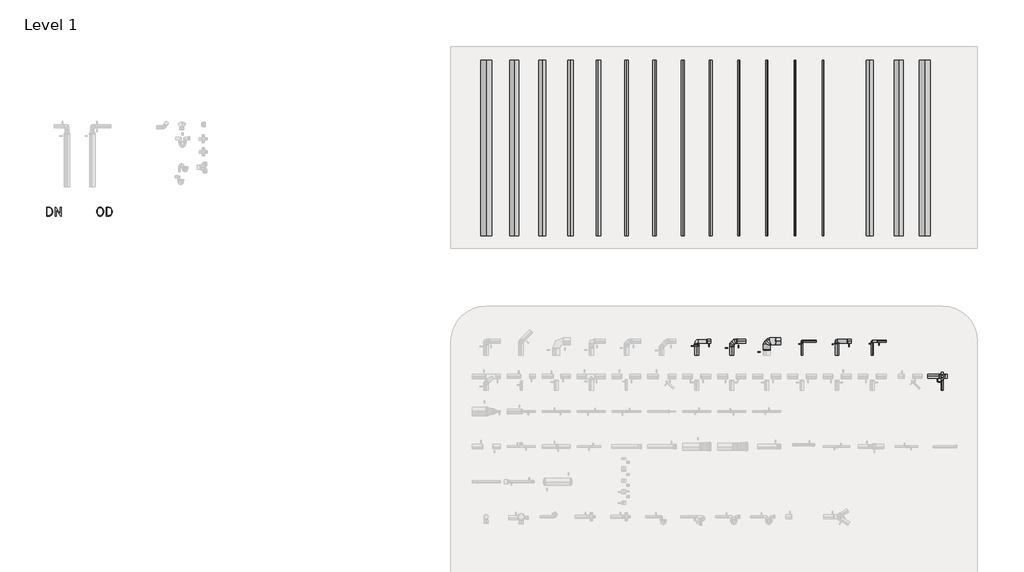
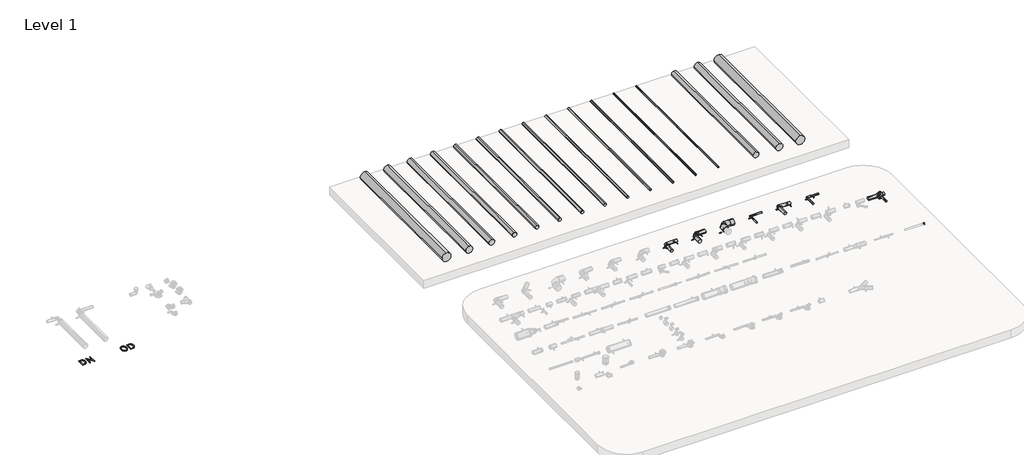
# One storey, part 6 of 6: 29 pipe segments, 23 pipe fittings, 2 proxies.
"""IFC4 building model written with IfcOpenShell, lengths in millimetres."""

from ifc_helpers import new_model, si_unit, point, frame, frame_2d, origin, origin_with_axes, place, context, project, spatial, polyline, circle_curve, trimmed, segment, composite_curve, outline, extrude, transform, mapped, element, save
from components import pipe_fitting_81bb528a, pipe_fitting_5bbf7105, var_6f643ae4, var_2f964d50, var_6e64f8e0, var_6ef94224, var_1fbc9df2, nested_do_not_use_0367c6a2, nested_do_not_use_355ab53d, nested_do_not_use_269007d1, nested_do_not_use_3e3a2135, nested_do_not_use_821c716b, nested_do_not_use_f1a46828, welded_7e5780db, welded_b2ff7ccb, welded_75b1cb19, welded_dc74d5dd, welded_63566782, welded_ac007b25

model = new_model("IFC4")

# Units and contexts
model_context = context("Model", 3, world=origin())
ifc_project = project(units=[si_unit("LENGTHUNIT", "METRE", prefix="MILLI")], contexts=[model_context])

# Site, building, storey
site = spatial("IfcSite", under=ifc_project)
building = spatial("IfcBuilding", under=site)
storey = spatial("IfcBuildingStorey", under=building, Name="Level 1", Elevation=0.0)

# Proxies
placement = place(None, origin())
element("IfcBuildingElementProxy", 1, Name="250mm", ObjectType="250mm", at=placement, inside=storey, context=model_context, shape_type="SweptSolid", body=[
    extrude(outline(polyline([(-9692.1749272, 23938.8206285), (-9715.6755281, 23879.4741742), (-9740.4404019, 23854.6349314), (-9776.6581002, 23842.364048), (-9863.521081, 23842.364048), (-9863.521081, 24089.864048), (-9776.0631483, 24089.864048), (-9738.8042841, 24077.2956886), (-9714.8574692, 24052.9770287), (-9692.1749272, 23996.3822271), (-9692.1749272, 23938.8206285)]), holes=[polyline([(-9715.9730041, 23939.3412114), (-9715.9730041, 23996.0847511), (-9726.9052457, 24029.1045828), (-9737.8374873, 24050.3741141), (-9747.282349, 24060.1164518), (-9779.0379079, 24070.8255864), (-9839.7230041, 24070.8255864), (-9839.7230041, 23861.4025095), (-9779.7072288, 23861.4025095), (-9748.9928358, 23871.7397992), (-9738.8042841, 23881.9283509), (-9727.2027216, 23904.4621549), (-9715.9730041, 23939.3412114)])]), origin_with_axes(), (0.0, 0.0, 1.0), 20.0),
    extrude(outline(polyline([(-9444.6749272, 23842.364048), (-9455.8302757, 23842.364048), (-9592.2230041, 24040.7061453), (-9592.2230041, 23842.364048), (-9616.021081, 23842.364048), (-9616.021081, 24089.864048), (-9603.6758286, 24089.864048), (-9468.4730041, 23896.281566), (-9468.4730041, 24089.864048), (-9444.6749272, 24089.864048), (-9444.6749272, 23842.364048)])), origin_with_axes(), (0.0, 0.0, 1.0), 20.0),
])
element("IfcBuildingElementProxy", 2, Name="250mm", ObjectType="250mm", at=placement, inside=storey, context=model_context, shape_type="SweptSolid", body=[
    extrude(outline(polyline([(-8237.896081, 23939.2668424), (-8249.8694885, 23903.792834), (-8261.8428959, 23879.0279602), (-8285.9384488, 23854.8580384), (-8311.1495365, 23842.364048), (-8360.0099632, 23842.364048), (-8384.997944, 23854.7836694), (-8409.3909728, 23879.1023292), (-8421.1412733, 23903.792834), (-8433.0403118, 23939.0437355), (-8433.0403118, 23996.3822271), (-8421.3643803, 24030.0713797), (-8410.2090317, 24053.2745047), (-8386.8571687, 24076.9238436), (-8360.8280221, 24089.864048), (-8310.2571086, 24089.864048), (-8284.227962, 24076.9982126), (-8260.876099, 24053.2745047), (-8249.5720125, 24030.0713797), (-8237.896081, 23996.1591201), (-8237.896081, 23939.2668424)]), holes=[polyline([(-8261.6941579, 23937.8538316), (-8261.6941579, 23993.5562054), (-8272.4776615, 24025.3861333), (-8293.8959308, 24056.5467403), (-8325.1309067, 24066.809661), (-8345.954224, 24066.809661), (-8377.114831, 24056.5467403), (-8398.4587312, 24025.2373953), (-8409.2422349, 23993.7793124), (-8409.2422349, 23937.6307247), (-8397.9381483, 23903.718465), (-8375.6274512, 23871.4423232), (-8345.1361651, 23861.4025095), (-8323.122944, 23861.4025095), (-8295.4576796, 23871.3679542), (-8272.8495065, 23903.792834), (-8261.6941579, 23937.8538316)])]), origin_with_axes(), (0.0, 0.0, 1.0), 20.0),
    extrude(outline(polyline([(-7990.396081, 23938.8206285), (-8013.896682, 23879.4741742), (-8038.6615558, 23854.6349314), (-8074.8792541, 23842.364048), (-8161.7422349, 23842.364048), (-8161.7422349, 24089.864048), (-8074.2843022, 24089.864048), (-8037.025438, 24077.2956886), (-8013.0786231, 24052.9770287), (-7990.396081, 23996.3822271), (-7990.396081, 23938.8206285)]), holes=[polyline([(-8014.1941579, 23939.3412114), (-8014.1941579, 23996.0847511), (-8025.1263995, 24029.1045828), (-8036.0586411, 24050.3741141), (-8045.5035029, 24060.1164518), (-8077.2590618, 24070.8255864), (-8137.9441579, 24070.8255864), (-8137.9441579, 23861.4025095), (-8077.9283827, 23861.4025095), (-8047.2139897, 23871.7397992), (-8037.025438, 23881.9283509), (-8025.4238755, 23904.4621549), (-8014.1941579, 23939.3412114)])]), origin_with_axes(), (0.0, 0.0, 1.0), 20.0),
])

# Pipe fittings
pipe_fitting_shape = pipe_fitting_81bb528a(model_context)
element("IfcPipeFitting", 3, ObjectType="PIF_HDPE weld_Akatherm : ringseal or non-welded", at=placement, inside=storey, context=model_context, shape_type="MappedRepresentation", body=[
    mapped(pipe_fitting_shape, transform((12659.9781064, 20232.3274824, 200.0), x_axis=(0.0, -1.0, 0.0), y_axis=(1.0, 0.0, 0.0), z_axis=(0.0, 0.0, 1.0))),
])
pipe_fitting_2_shape = pipe_fitting_5bbf7105(model_context)
element("IfcPipeFitting", 4, ObjectType="PIF_HDPE weld_Akatherm : ringseal or non-welded", at=placement, inside=storey, context=model_context, shape_type="MappedRepresentation", body=[
    mapped(pipe_fitting_2_shape, transform((13659.9781064, 20245.1274824, 200.0), x_axis=(0.0, -1.0, 0.0), y_axis=(1.0, 0.0, 0.0), z_axis=(0.0, 0.0, 1.0))),
])
var_shape = var_6f643ae4(model_context)
element("IfcPipeFitting", 5, ObjectType="PIF_HDPE floor lavatory bend_Akatherm : Var.", at=placement, inside=storey, context=model_context, shape_type="MappedRepresentation", body=[
    mapped(var_shape, transform((8659.9781064, 20273.6274824, 200.0), x_axis=(-1.0, 0.0, 0.0), y_axis=(0.0, -1.0, 0.0), z_axis=(0.0, 0.0, 1.0))),
])
var_2_shape = var_2f964d50(model_context)
element("IfcPipeFitting", 6, ObjectType="PIF_HDPE assembled elbow 2x 45º_Akatherm : Var.", at=placement, inside=storey, context=model_context, shape_type="MappedRepresentation", body=[
    mapped(var_2_shape, transform((10659.9781064, 20273.6274824, 200.0), x_axis=(-1.0, 0.0, 0.0), y_axis=(0.0, -1.0, 0.0), z_axis=(0.0, 0.0, 1.0))),
])
var_3_shape = var_6e64f8e0(model_context)
element("IfcPipeFitting", 7, ObjectType="PIF_HDPE wall lavatory bend_Akatherm : Var.", at=placement, inside=storey, context=model_context, shape_type="MappedRepresentation", body=[
    mapped(var_3_shape, transform((12659.9781064, 20273.6274824, 200.0), x_axis=(-1.0, 0.0, 0.0), y_axis=(0.0, -1.0, 0.0), z_axis=(0.0, 0.0, 1.0))),
])
var_4_shape = var_6ef94224(model_context)
element("IfcPipeFitting", 8, ObjectType="PIF_HDPE wall urinal bend_Akatherm : Var.", at=placement, inside=storey, context=model_context, shape_type="MappedRepresentation", body=[
    mapped(var_4_shape, transform((13659.9781064, 20273.6274824, 200.0), x_axis=(-1.0, 0.0, 0.0), y_axis=(0.0, -1.0, 0.0), z_axis=(0.0, 0.0, 1.0))),
])
var_5_shape = var_1fbc9df2(model_context)
element("IfcPipeFitting", 9, ObjectType="PIF_HDPE 4-way riser_Akatherm : Var.", at=placement, inside=storey, context=model_context, shape_type="MappedRepresentation", body=[
    mapped(var_5_shape, transform((15659.9781064, 19273.6274824, 200.0), x_axis=(-1.0, 0.0, 0.0), y_axis=(0.0, -1.0, 0.0), z_axis=(0.0, 0.0, 1.0))),
])
nested_do_not_use_shape = nested_do_not_use_0367c6a2(model_context)
element("IfcPipeFitting", 10, ObjectType="ZZZ_do no use_PIF_HDPE elbow for bend assembly -SH_Akatherm : nested, do not use", at=placement, inside=storey, context=model_context, shape_type="MappedRepresentation", body=[
    mapped(nested_do_not_use_shape, transform((9745.962291, 20273.6274824, 200.0), x_axis=(-1.0, 0.0, 0.0), y_axis=(0.0, -1.0, 0.0), z_axis=(0.0, 0.0, 1.0))),
])
nested_do_not_use_2_shape = nested_do_not_use_355ab53d(model_context)
element("IfcPipeFitting", 11, ObjectType="ZZZ_do no use_PIF_HDPE elbow for bend assembly -SH_Akatherm : nested, do not use", at=placement, inside=storey, context=model_context, shape_type="MappedRepresentation", body=[
    mapped(nested_do_not_use_2_shape, transform((9659.9781064, 20187.6432978, 200.0), x_axis=(0.0, 1.0, 0.0), y_axis=(-1.0, 0.0, 0.0), z_axis=(0.0, 0.0, 1.0))),
])
nested_do_not_use_3_shape = nested_do_not_use_269007d1(model_context)
element("IfcPipeFitting", 12, ObjectType="ZZZ_do no use_PIF_HDPE rubber sleeve -SH_Akatherm : nested, do not use", at=placement, inside=storey, context=model_context, shape_type="MappedRepresentation", body=[
    mapped(nested_do_not_use_3_shape, transform((11659.9781064, 20235.6274824, 200.0), x_axis=(0.0, -1.0000000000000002, 0.0), y_axis=(1.0000000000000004, 0.0, 0.0), z_axis=(0.0, 0.0, 1.0000000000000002))),
])
nested_do_not_use_4_shape = nested_do_not_use_3e3a2135(model_context)
element("IfcPipeFitting", 13, ObjectType="ZZZ_do no use_PIF_HDPE protective cap for plugin socket -SH_Akatherm : nested, do not use", at=placement, inside=storey, context=model_context, shape_type="MappedRepresentation", body=[
    mapped(nested_do_not_use_4_shape, transform((16069.9781064, 17273.6274824, 200.0), x_axis=(1.0000000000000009, 0.0, 0.0), y_axis=(0.0, 1.0000000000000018, 0.0), z_axis=(0.0, 0.0, 1.0000000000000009))),
])
nested_do_not_use_5_shape = nested_do_not_use_821c716b(model_context)
element("IfcPipeFitting", 14, ObjectType="ZZZ_do no use_PIF_HDPE rubber seal -SH_Akatherm : nested, do not use", at=placement, inside=storey, context=model_context, shape_type="MappedRepresentation", body=[
    mapped(nested_do_not_use_5_shape, transform((8659.9781064, 20133.6274824, 200.0), x_axis=(0.0, -1.0, 0.0), y_axis=(1.0, 0.0, 0.0), z_axis=(0.0, 0.0, 1.0))),
])
nested_do_not_use_6_shape = nested_do_not_use_f1a46828(model_context)
element("IfcPipeFitting", 15, ObjectType="ZZZ_do no use_PIF_HDPE trap connecting bend -SH_Akatherm : nested, do not use", at=placement, inside=storey, context=model_context, shape_type="MappedRepresentation", body=[
    mapped(nested_do_not_use_6_shape, transform((11659.9781064, 20273.6274824, 200.0), x_axis=(-1.0, 0.0, 0.0), y_axis=(0.0, -1.0, 0.0), z_axis=(0.0, 0.0, 1.0))),
])
welded_shape = welded_7e5780db(model_context)
element("IfcPipeFitting", 16, ObjectType="PIF_HDPE weld_Akatherm : welded", at=placement, inside=storey, context=model_context, shape_type="MappedRepresentation", body=[
    mapped(welded_shape, transform((9806.762291, 20273.6274824, 200.0), x_axis=(1.0, 0.0, 0.0), y_axis=(0.0, 1.0, 0.0), z_axis=(0.0, 0.0, 1.0))),
])
element("IfcPipeFitting", 17, ObjectType="PIF_HDPE weld_Akatherm : welded", at=placement, inside=storey, context=model_context, shape_type="MappedRepresentation", body=[
    mapped(welded_shape, transform((9659.9781064, 20126.8432978, 200.0), x_axis=(0.0, -1.0, 0.0), y_axis=(1.0, 0.0, 0.0), z_axis=(0.0, 0.0, 1.0))),
])
welded_2_shape = welded_b2ff7ccb(model_context)
element("IfcPipeFitting", 18, ObjectType="PIF_HDPE weld_Akatherm : welded", at=placement, inside=storey, context=model_context, shape_type="MappedRepresentation", body=[
    mapped(welded_2_shape, transform((10659.9781064, 20024.3274824, 200.0), x_axis=(0.0, -1.0, 0.0), y_axis=(1.0, 0.0, 0.0), z_axis=(0.0, 0.0, 1.0))),
])
welded_3_shape = welded_75b1cb19(model_context)
element("IfcPipeFitting", 19, ObjectType="PIF_HDPE weld_Akatherm : welded", at=placement, inside=storey, context=model_context, shape_type="MappedRepresentation", body=[
    mapped(welded_3_shape, transform((13805.2781064, 20273.6274824, 200.0), x_axis=(1.0, 0.0, 0.0), y_axis=(0.0, 1.0, 0.0), z_axis=(0.0, 0.0, 1.0))),
])
welded_4_shape = welded_dc74d5dd(model_context)
element("IfcPipeFitting", 20, ObjectType="PIF_HDPE weld_Akatherm : welded", at=placement, inside=storey, context=model_context, shape_type="MappedRepresentation", body=[
    mapped(welded_4_shape, transform((15659.9781064, 19163.5274824, 200.0), x_axis=(0.0, -1.0, 0.0), y_axis=(1.0, 0.0, 0.0), z_axis=(0.0, 0.0, 1.0))),
])
welded_5_shape = welded_63566782(model_context)
element("IfcPipeFitting", 21, ObjectType="PIF_HDPE weld_Akatherm : welded", at=placement, inside=storey, context=model_context, shape_type="MappedRepresentation", body=[
    mapped(welded_5_shape, transform((11659.9781064, 20247.6274824, 200.0), x_axis=(0.0, -1.0, 0.0), y_axis=(1.0, 0.0, 0.0), z_axis=(0.0, 0.0, 1.0))),
])
welded_6_shape = welded_ac007b25(model_context)
element("IfcPipeFitting", 22, ObjectType="PIF_HDPE weld_Akatherm : welded", at=placement, inside=storey, context=model_context, shape_type="MappedRepresentation", body=[
    mapped(welded_6_shape, transform((12956.2781064, 20273.6274824, 200.0), x_axis=(1.0, 0.0, 0.0), y_axis=(0.0, 1.0, 0.0), z_axis=(0.0, 0.0, 1.0))),
])
element("IfcPipeFitting", 23, ObjectType="PIF_HDPE weld_Akatherm : welded", at=placement, inside=storey, context=model_context, shape_type="MappedRepresentation", body=[
    mapped(welded_6_shape, transform((8956.2781064, 20273.6274824, 200.0), x_axis=(1.0, 0.0, 0.0), y_axis=(0.0, 1.0, 0.0), z_axis=(0.0, 0.0, 1.0))),
])
element("IfcPipeFitting", 24, ObjectType="PIF_HDPE weld_Akatherm : welded", at=placement, inside=storey, context=model_context, shape_type="MappedRepresentation", body=[
    mapped(welded_6_shape, transform((8659.9781064, 20188.6274824, 200.0), x_axis=(0.0, -1.0, 0.0), y_axis=(1.0, 0.0, 0.0), z_axis=(0.0, 0.0, 1.0))),
])
element("IfcPipeFitting", 25, ObjectType="PIF_HDPE weld_Akatherm : welded", at=placement, inside=storey, context=model_context, shape_type="MappedRepresentation", body=[
    mapped(welded_6_shape, transform((15568.7781064, 19273.6274824, 200.0), x_axis=(-1.0, 0.0, 0.0), y_axis=(0.0, 1.0, 0.0), z_axis=(0.0, 0.0, -1.0))),
])

# Pipe segments
element("IfcPipeSegment", 26, ObjectType="Akatherm HDPE (DN)", at=placement, inside=storey, context=model_context, shape_type="SweptSolid", body=[
    extrude(outline(composite_curve([segment(trimmed(circle_curve(frame_2d((0.0, 2659.9781064)), 157.5), [point((0.0, 2502.4781064))], [point((-157.5, 2659.9781064))], False, "CARTESIAN"), True, "CONTINUOUS"), segment(trimmed(circle_curve(frame_2d((0.0, 2659.9781064)), 157.5), [point((-157.5, 2659.9781064))], [point((0.0, 2817.4781064))], False, "CARTESIAN"), True, "CONTINUOUS"), segment(trimmed(circle_curve(frame_2d((0.0, 2659.9781064)), 157.5), [point((0.0, 2817.4781064))], [point((157.5, 2659.9781064))], False, "CARTESIAN"), True, "CONTINUOUS"), segment(trimmed(circle_curve(frame_2d((0.0, 2659.9781064)), 157.5), [point((157.5, 2659.9781064))], [point((0.0, 2502.4781064))], False, "CARTESIAN"), True, "CONTINUOUS")], self_intersect=False)), frame((0.0, 23273.6274824, 0.0), z_axis=(0.0, 1.0, 0.0), x_axis=(0.0, 0.0, 1.0)), (0.0, 0.0, 1.0), 5000.0),
])
element("IfcPipeSegment", 27, ObjectType="Akatherm HDPE (DN)", at=placement, inside=storey, context=model_context, shape_type="SweptSolid", body=[
    extrude(outline(composite_curve([segment(trimmed(circle_curve(frame_2d((0.0, 3459.9781064)), 125.0), [point((0.0, 3334.9781064))], [point((-125.0, 3459.9781064))], False, "CARTESIAN"), True, "CONTINUOUS"), segment(trimmed(circle_curve(frame_2d((0.0, 3459.9781064)), 125.0), [point((-125.0, 3459.9781064))], [point((0.0, 3584.9781064))], False, "CARTESIAN"), True, "CONTINUOUS"), segment(trimmed(circle_curve(frame_2d((0.0, 3459.9781064)), 125.0), [point((0.0, 3584.9781064))], [point((125.0, 3459.9781064))], False, "CARTESIAN"), True, "CONTINUOUS"), segment(trimmed(circle_curve(frame_2d((0.0, 3459.9781064)), 125.0), [point((125.0, 3459.9781064))], [point((0.0, 3334.9781064))], False, "CARTESIAN"), True, "CONTINUOUS")], self_intersect=False)), frame((0.0, 23273.6274824, 0.0), z_axis=(0.0, 1.0, 0.0), x_axis=(0.0, 0.0, 1.0)), (0.0, 0.0, 1.0), 5000.0),
])
element("IfcPipeSegment", 28, ObjectType="Akatherm HDPE (DN)", at=placement, inside=storey, context=model_context, shape_type="SweptSolid", body=[
    extrude(outline(composite_curve([segment(trimmed(circle_curve(frame_2d((0.0, 4259.9781064)), 100.0), [point((0.0, 4159.9781064))], [point((-100.0, 4259.9781064))], False, "CARTESIAN"), True, "CONTINUOUS"), segment(trimmed(circle_curve(frame_2d((0.0, 4259.9781064)), 100.0), [point((-100.0, 4259.9781064))], [point((0.0, 4359.9781064))], False, "CARTESIAN"), True, "CONTINUOUS"), segment(trimmed(circle_curve(frame_2d((0.0, 4259.9781064)), 100.0), [point((0.0, 4359.9781064))], [point((100.0, 4259.9781064))], False, "CARTESIAN"), True, "CONTINUOUS"), segment(trimmed(circle_curve(frame_2d((0.0, 4259.9781064)), 100.0), [point((100.0, 4259.9781064))], [point((0.0, 4159.9781064))], False, "CARTESIAN"), True, "CONTINUOUS")], self_intersect=False)), frame((0.0, 23273.6274824, 0.0), z_axis=(0.0, 1.0, 0.0), x_axis=(0.0, 0.0, 1.0)), (0.0, 0.0, 1.0), 5000.0),
])
element("IfcPipeSegment", 29, ObjectType="Akatherm HDPE (DN)", at=placement, inside=storey, context=model_context, shape_type="SweptSolid", body=[
    extrude(outline(composite_curve([segment(trimmed(circle_curve(frame_2d((0.0, 5059.9781064)), 80.0), [point((0.0, 4979.9781064))], [point((-80.0, 5059.9781064))], False, "CARTESIAN"), True, "CONTINUOUS"), segment(trimmed(circle_curve(frame_2d((0.0, 5059.9781064)), 80.0), [point((-80.0, 5059.9781064))], [point((0.0, 5139.9781064))], False, "CARTESIAN"), True, "CONTINUOUS"), segment(trimmed(circle_curve(frame_2d((0.0, 5059.9781064)), 80.0), [point((0.0, 5139.9781064))], [point((80.0, 5059.9781064))], False, "CARTESIAN"), True, "CONTINUOUS"), segment(trimmed(circle_curve(frame_2d((0.0, 5059.9781064)), 80.0), [point((80.0, 5059.9781064))], [point((0.0, 4979.9781064))], False, "CARTESIAN"), True, "CONTINUOUS")], self_intersect=False)), frame((0.0, 23273.6274824, 0.0), z_axis=(0.0, 1.0, 0.0), x_axis=(0.0, 0.0, 1.0)), (0.0, 0.0, 1.0), 5000.0),
])
element("IfcPipeSegment", 30, ObjectType="Akatherm HDPE (DN)", at=placement, inside=storey, context=model_context, shape_type="SweptSolid", body=[
    extrude(outline(composite_curve([segment(trimmed(circle_curve(frame_2d((0.0, 5859.9781064)), 62.5), [point((0.0, 5797.4781064))], [point((-62.5, 5859.9781064))], False, "CARTESIAN"), True, "CONTINUOUS"), segment(trimmed(circle_curve(frame_2d((0.0, 5859.9781064)), 62.5), [point((-62.5, 5859.9781064))], [point((0.0, 5922.4781064))], False, "CARTESIAN"), True, "CONTINUOUS"), segment(trimmed(circle_curve(frame_2d((0.0, 5859.9781064)), 62.5), [point((0.0, 5922.4781064))], [point((62.5, 5859.9781064))], False, "CARTESIAN"), True, "CONTINUOUS"), segment(trimmed(circle_curve(frame_2d((0.0, 5859.9781064)), 62.5), [point((62.5, 5859.9781064))], [point((0.0, 5797.4781064))], False, "CARTESIAN"), True, "CONTINUOUS")], self_intersect=False)), frame((0.0, 23273.6274824, 0.0), z_axis=(0.0, 1.0, 0.0), x_axis=(0.0, 0.0, 1.0)), (0.0, 0.0, 1.0), 5000.0),
])
element("IfcPipeSegment", 31, ObjectType="Akatherm HDPE (DN)", at=placement, inside=storey, context=model_context, shape_type="SweptSolid", body=[
    extrude(outline(composite_curve([segment(trimmed(circle_curve(frame_2d((0.0, 6659.9781064)), 55.0), [point((0.0, 6604.9781064))], [point((-55.0, 6659.9781064))], False, "CARTESIAN"), True, "CONTINUOUS"), segment(trimmed(circle_curve(frame_2d((0.0, 6659.9781064)), 55.0), [point((-55.0, 6659.9781064))], [point((0.0, 6714.9781064))], False, "CARTESIAN"), True, "CONTINUOUS"), segment(trimmed(circle_curve(frame_2d((0.0, 6659.9781064)), 55.0), [point((0.0, 6714.9781064))], [point((55.0, 6659.9781064))], False, "CARTESIAN"), True, "CONTINUOUS"), segment(trimmed(circle_curve(frame_2d((0.0, 6659.9781064)), 55.0), [point((55.0, 6659.9781064))], [point((0.0, 6604.9781064))], False, "CARTESIAN"), True, "CONTINUOUS")], self_intersect=False)), frame((0.0, 23273.6274824, 0.0), z_axis=(0.0, 1.0, 0.0), x_axis=(0.0, 0.0, 1.0)), (0.0, 0.0, 1.0), 5000.0),
])
element("IfcPipeSegment", 32, ObjectType="Akatherm HDPE (DN)", at=placement, inside=storey, context=model_context, shape_type="SweptSolid", body=[
    extrude(outline(composite_curve([segment(trimmed(circle_curve(frame_2d((0.0, 8259.9781064)), 45.0), [point((0.0, 8214.9781064))], [point((-45.0, 8259.9781064))], False, "CARTESIAN"), True, "CONTINUOUS"), segment(trimmed(circle_curve(frame_2d((0.0, 8259.9781064)), 45.0), [point((-45.0, 8259.9781064))], [point((0.0, 8304.9781064))], False, "CARTESIAN"), True, "CONTINUOUS"), segment(trimmed(circle_curve(frame_2d((0.0, 8259.9781064)), 45.0), [point((0.0, 8304.9781064))], [point((45.0, 8259.9781064))], False, "CARTESIAN"), True, "CONTINUOUS"), segment(trimmed(circle_curve(frame_2d((0.0, 8259.9781064)), 45.0), [point((45.0, 8259.9781064))], [point((0.0, 8214.9781064))], False, "CARTESIAN"), True, "CONTINUOUS")], self_intersect=False)), frame((0.0, 23273.6274824, 0.0), z_axis=(0.0, 1.0, 0.0), x_axis=(0.0, 0.0, 1.0)), (0.0, 0.0, 1.0), 5000.0),
])
element("IfcPipeSegment", 33, ObjectType="Akatherm HDPE (DN)", at=placement, inside=storey, context=model_context, shape_type="SweptSolid", body=[
    extrude(outline(composite_curve([segment(trimmed(circle_curve(frame_2d((0.0, 9059.9781064)), 37.5), [point((0.0, 9022.4781064))], [point((-37.5, 9059.9781064))], False, "CARTESIAN"), True, "CONTINUOUS"), segment(trimmed(circle_curve(frame_2d((0.0, 9059.9781064)), 37.5), [point((-37.5, 9059.9781064))], [point((0.0, 9097.4781064))], False, "CARTESIAN"), True, "CONTINUOUS"), segment(trimmed(circle_curve(frame_2d((0.0, 9059.9781064)), 37.5), [point((0.0, 9097.4781064))], [point((37.5, 9059.9781064))], False, "CARTESIAN"), True, "CONTINUOUS"), segment(trimmed(circle_curve(frame_2d((0.0, 9059.9781064)), 37.5), [point((37.5, 9059.9781064))], [point((0.0, 9022.4781064))], False, "CARTESIAN"), True, "CONTINUOUS")], self_intersect=False)), frame((0.0, 23273.6274824, 0.0), z_axis=(0.0, 1.0, 0.0), x_axis=(0.0, 0.0, 1.0)), (0.0, 0.0, 1.0), 5000.0),
])
element("IfcPipeSegment", 34, ObjectType="Akatherm HDPE (DN)", at=placement, inside=storey, context=model_context, shape_type="SweptSolid", body=[
    extrude(outline(composite_curve([segment(trimmed(circle_curve(frame_2d((0.0, 9859.9781064)), 31.5), [point((0.0, 9828.4781064))], [point((-31.5, 9859.9781064))], False, "CARTESIAN"), True, "CONTINUOUS"), segment(trimmed(circle_curve(frame_2d((0.0, 9859.9781064)), 31.5), [point((-31.5, 9859.9781064))], [point((0.0, 9891.4781064))], False, "CARTESIAN"), True, "CONTINUOUS"), segment(trimmed(circle_curve(frame_2d((0.0, 9859.9781064)), 31.5), [point((0.0, 9891.4781064))], [point((31.5, 9859.9781064))], False, "CARTESIAN"), True, "CONTINUOUS"), segment(trimmed(circle_curve(frame_2d((0.0, 9859.9781064)), 31.5), [point((31.5, 9859.9781064))], [point((0.0, 9828.4781064))], False, "CARTESIAN"), True, "CONTINUOUS")], self_intersect=False)), frame((0.0, 23273.6274824, 0.0), z_axis=(0.0, 1.0, 0.0), x_axis=(0.0, 0.0, 1.0)), (0.0, 0.0, 1.0), 5000.0),
])
element("IfcPipeSegment", 35, ObjectType="Akatherm HDPE (DN)", at=placement, inside=storey, context=model_context, shape_type="SweptSolid", body=[
    extrude(outline(composite_curve([segment(trimmed(circle_curve(frame_2d((0.0, 10659.9781064)), 28.0), [point((0.0, 10631.9781064))], [point((-28.0, 10659.9781064))], False, "CARTESIAN"), True, "CONTINUOUS"), segment(trimmed(circle_curve(frame_2d((0.0, 10659.9781064)), 28.0), [point((-28.0, 10659.9781064))], [point((0.0, 10687.9781064))], False, "CARTESIAN"), True, "CONTINUOUS"), segment(trimmed(circle_curve(frame_2d((0.0, 10659.9781064)), 28.0), [point((0.0, 10687.9781064))], [point((28.0, 10659.9781064))], False, "CARTESIAN"), True, "CONTINUOUS"), segment(trimmed(circle_curve(frame_2d((0.0, 10659.9781064)), 28.0), [point((28.0, 10659.9781064))], [point((0.0, 10631.9781064))], False, "CARTESIAN"), True, "CONTINUOUS")], self_intersect=False)), frame((0.0, 23273.6274824, 0.0), z_axis=(0.0, 1.0, 0.0), x_axis=(0.0, 0.0, 1.0)), (0.0, 0.0, 1.0), 5000.0),
])
element("IfcPipeSegment", 36, ObjectType="Akatherm HDPE (DN)", at=placement, inside=storey, context=model_context, shape_type="SweptSolid", body=[
    extrude(outline(composite_curve([segment(trimmed(circle_curve(frame_2d((0.0, 11459.9781064)), 25.0), [point((0.0, 11434.9781064))], [point((-25.0, 11459.9781064))], False, "CARTESIAN"), True, "CONTINUOUS"), segment(trimmed(circle_curve(frame_2d((0.0, 11459.9781064)), 25.0), [point((-25.0, 11459.9781064))], [point((0.0, 11484.9781064))], False, "CARTESIAN"), True, "CONTINUOUS"), segment(trimmed(circle_curve(frame_2d((0.0, 11459.9781064)), 25.0), [point((0.0, 11484.9781064))], [point((25.0, 11459.9781064))], False, "CARTESIAN"), True, "CONTINUOUS"), segment(trimmed(circle_curve(frame_2d((0.0, 11459.9781064)), 25.0), [point((25.0, 11459.9781064))], [point((0.0, 11434.9781064))], False, "CARTESIAN"), True, "CONTINUOUS")], self_intersect=False)), frame((0.0, 23273.6274824, 0.0), z_axis=(0.0, 1.0, 0.0), x_axis=(0.0, 0.0, 1.0)), (0.0, 0.0, 1.0), 5000.0),
])
element("IfcPipeSegment", 37, ObjectType="Akatherm HDPE (DN)", at=placement, inside=storey, context=model_context, shape_type="SweptSolid", body=[
    extrude(outline(composite_curve([segment(trimmed(circle_curve(frame_2d((0.0, 12259.9781064)), 20.0), [point((0.0, 12239.9781064))], [point((-20.0, 12259.9781064))], False, "CARTESIAN"), True, "CONTINUOUS"), segment(trimmed(circle_curve(frame_2d((0.0, 12259.9781064)), 20.0), [point((-20.0, 12259.9781064))], [point((0.0, 12279.9781064))], False, "CARTESIAN"), True, "CONTINUOUS"), segment(trimmed(circle_curve(frame_2d((0.0, 12259.9781064)), 20.0), [point((0.0, 12279.9781064))], [point((20.0, 12259.9781064))], False, "CARTESIAN"), True, "CONTINUOUS"), segment(trimmed(circle_curve(frame_2d((0.0, 12259.9781064)), 20.0), [point((20.0, 12259.9781064))], [point((0.0, 12239.9781064))], False, "CARTESIAN"), True, "CONTINUOUS")], self_intersect=False)), frame((0.0, 23273.6274824, 0.0), z_axis=(0.0, 1.0, 0.0), x_axis=(0.0, 0.0, 1.0)), (0.0, 0.0, 1.0), 5000.0),
])
element("IfcPipeSegment", 38, ObjectType="Akatherm HDPE (DN)", at=placement, inside=storey, context=model_context, shape_type="SweptSolid", body=[
    extrude(outline(composite_curve([segment(trimmed(circle_curve(frame_2d((0.0, 15159.9781064)), 157.5), [point((0.0, 15002.4781064))], [point((-157.5, 15159.9781064))], False, "CARTESIAN"), True, "CONTINUOUS"), segment(trimmed(circle_curve(frame_2d((0.0, 15159.9781064)), 157.5), [point((-157.5, 15159.9781064))], [point((0.0, 15317.4781064))], False, "CARTESIAN"), True, "CONTINUOUS"), segment(trimmed(circle_curve(frame_2d((0.0, 15159.9781064)), 157.5), [point((0.0, 15317.4781064))], [point((157.5, 15159.9781064))], False, "CARTESIAN"), True, "CONTINUOUS"), segment(trimmed(circle_curve(frame_2d((0.0, 15159.9781064)), 157.5), [point((157.5, 15159.9781064))], [point((0.0, 15002.4781064))], False, "CARTESIAN"), True, "CONTINUOUS")], self_intersect=False)), frame((0.0, 23273.6274824, 0.0), z_axis=(0.0, 1.0, 0.0), x_axis=(0.0, 0.0, 1.0)), (0.0, 0.0, 1.0), 5000.0),
])
element("IfcPipeSegment", 39, ObjectType="Akatherm HDPE (DN)", at=placement, inside=storey, context=model_context, shape_type="SweptSolid", body=[
    extrude(outline(composite_curve([segment(trimmed(circle_curve(frame_2d((0.0, 14418.261571)), 125.0), [point((0.0, 14293.261571))], [point((-125.0, 14418.261571))], False, "CARTESIAN"), True, "CONTINUOUS"), segment(trimmed(circle_curve(frame_2d((0.0, 14418.261571)), 125.0), [point((-125.0, 14418.261571))], [point((0.0, 14543.261571))], False, "CARTESIAN"), True, "CONTINUOUS"), segment(trimmed(circle_curve(frame_2d((0.0, 14418.261571)), 125.0), [point((0.0, 14543.261571))], [point((125.0, 14418.261571))], False, "CARTESIAN"), True, "CONTINUOUS"), segment(trimmed(circle_curve(frame_2d((0.0, 14418.261571)), 125.0), [point((125.0, 14418.261571))], [point((0.0, 14293.261571))], False, "CARTESIAN"), True, "CONTINUOUS")], self_intersect=False)), frame((0.0, 23273.6274824, 0.0), z_axis=(0.0, 1.0, 0.0), x_axis=(0.0, 0.0, 1.0)), (0.0, 0.0, 1.0), 5000.0),
])
element("IfcPipeSegment", 40, ObjectType="Akatherm HDPE (DN)", at=placement, inside=storey, context=model_context, shape_type="SweptSolid", body=[
    extrude(outline(composite_curve([segment(trimmed(circle_curve(frame_2d((0.0, 13595.6678277)), 100.0), [point((0.0, 13495.6678277))], [point((-100.0, 13595.6678277))], False, "CARTESIAN"), True, "CONTINUOUS"), segment(trimmed(circle_curve(frame_2d((0.0, 13595.6678277)), 100.0), [point((-100.0, 13595.6678277))], [point((0.0, 13695.6678277))], False, "CARTESIAN"), True, "CONTINUOUS"), segment(trimmed(circle_curve(frame_2d((0.0, 13595.6678277)), 100.0), [point((0.0, 13695.6678277))], [point((100.0, 13595.6678277))], False, "CARTESIAN"), True, "CONTINUOUS"), segment(trimmed(circle_curve(frame_2d((0.0, 13595.6678277)), 100.0), [point((100.0, 13595.6678277))], [point((0.0, 13495.6678277))], False, "CARTESIAN"), True, "CONTINUOUS")], self_intersect=False)), frame((0.0, 23273.6274824, 0.0), z_axis=(0.0, 1.0, 0.0), x_axis=(0.0, 0.0, 1.0)), (0.0, 0.0, 1.0), 5000.0),
])
element("IfcPipeSegment", 41, ObjectType="Akatherm HDPE (DN)", at=placement, inside=storey, context=model_context, shape_type="SweptSolid", body=[
    extrude(outline(composite_curve([segment(trimmed(circle_curve(frame_2d((0.0, 7459.9781064)), 55.0), [point((0.0, 7404.9781064))], [point((-55.0, 7459.9781064))], False, "CARTESIAN"), True, "CONTINUOUS"), segment(trimmed(circle_curve(frame_2d((0.0, 7459.9781064)), 55.0), [point((-55.0, 7459.9781064))], [point((0.0, 7514.9781064))], False, "CARTESIAN"), True, "CONTINUOUS"), segment(trimmed(circle_curve(frame_2d((0.0, 7459.9781064)), 55.0), [point((0.0, 7514.9781064))], [point((55.0, 7459.9781064))], False, "CARTESIAN"), True, "CONTINUOUS"), segment(trimmed(circle_curve(frame_2d((0.0, 7459.9781064)), 55.0), [point((55.0, 7459.9781064))], [point((0.0, 7404.9781064))], False, "CARTESIAN"), True, "CONTINUOUS")], self_intersect=False)), frame((0.0, 23273.6274824, 0.0), z_axis=(0.0, 1.0, 0.0), x_axis=(0.0, 0.0, 1.0)), (0.0, 0.0, 1.0), 5000.0),
])
element("IfcPipeSegment", 42, ObjectType="Akatherm HDPE (DN)", at=placement, inside=storey, context=model_context, shape_type="SweptSolid", body=[
    extrude(outline(composite_curve([segment(trimmed(circle_curve(frame_2d((200.0, 9659.9781064)), 62.5), [point((200.0, 9597.4781064))], [point((137.5, 9659.9781064))], False, "CARTESIAN"), True, "CONTINUOUS"), segment(trimmed(circle_curve(frame_2d((200.0, 9659.9781064)), 62.5), [point((137.5, 9659.9781064))], [point((200.0, 9722.4781064))], False, "CARTESIAN"), True, "CONTINUOUS"), segment(trimmed(circle_curve(frame_2d((200.0, 9659.9781064)), 62.5), [point((200.0, 9722.4781064))], [point((262.5, 9659.9781064))], False, "CARTESIAN"), True, "CONTINUOUS"), segment(trimmed(circle_curve(frame_2d((200.0, 9659.9781064)), 62.5), [point((262.5, 9659.9781064))], [point((200.0, 9597.4781064))], False, "CARTESIAN"), True, "CONTINUOUS")], self_intersect=False)), frame((0.0, 19873.6274824, 0.0), z_axis=(0.0, 1.0, 0.0), x_axis=(0.0, 0.0, 1.0)), (0.0, 0.0, 1.0), 257.4158154),
])
element("IfcPipeSegment", 43, ObjectType="Akatherm HDPE (DN)", at=placement, inside=storey, context=model_context, shape_type="SweptSolid", body=[
    extrude(outline(composite_curve([segment(trimmed(circle_curve(frame_2d((20273.6274824, 200.0)), 62.5), [point((20211.1274824, 200.0))], [point((20273.6274824, 262.5))], False, "CARTESIAN"), True, "CONTINUOUS"), segment(trimmed(circle_curve(frame_2d((20273.6274824, 200.0)), 62.5), [point((20273.6274824, 262.5))], [point((20336.1274824, 200.0))], False, "CARTESIAN"), True, "CONTINUOUS"), segment(trimmed(circle_curve(frame_2d((20273.6274824, 200.0)), 62.5), [point((20336.1274824, 200.0))], [point((20273.6274824, 137.5))], False, "CARTESIAN"), True, "CONTINUOUS"), segment(trimmed(circle_curve(frame_2d((20273.6274824, 200.0)), 62.5), [point((20273.6274824, 137.5))], [point((20211.1274824, 200.0))], False, "CARTESIAN"), True, "CONTINUOUS")], self_intersect=False)), frame((9802.562291, 0.0, 0.0), z_axis=(1.0, 0.0, 0.0), x_axis=(0.0, 1.0, 0.0)), (0.0, 0.0, 1.0), 257.4158154),
])
element("IfcPipeSegment", 44, ObjectType="Akatherm HDPE (DN)", at=placement, inside=storey, context=model_context, shape_type="SweptSolid", body=[
    extrude(outline(composite_curve([segment(trimmed(circle_curve(frame_2d((20273.6274824, 200.0)), 100.0), [point((20173.6274824, 200.0))], [point((20273.6274824, 300.0))], False, "CARTESIAN"), True, "CONTINUOUS"), segment(trimmed(circle_curve(frame_2d((20273.6274824, 200.0)), 100.0), [point((20273.6274824, 300.0))], [point((20373.6274824, 200.0))], False, "CARTESIAN"), True, "CONTINUOUS"), segment(trimmed(circle_curve(frame_2d((20273.6274824, 200.0)), 100.0), [point((20373.6274824, 200.0))], [point((20273.6274824, 100.0))], False, "CARTESIAN"), True, "CONTINUOUS"), segment(trimmed(circle_curve(frame_2d((20273.6274824, 200.0)), 100.0), [point((20273.6274824, 100.0))], [point((20173.6274824, 200.0))], False, "CARTESIAN"), True, "CONTINUOUS")], self_intersect=False)), frame((10905.5781064, 0.0, 0.0), z_axis=(1.0, 0.0, 0.0), x_axis=(0.0, 1.0, 0.0)), (0.0, 0.0, 1.0), 154.4),
])
element("IfcPipeSegment", 45, ObjectType="Akatherm HDPE (DN)", at=placement, inside=storey, context=model_context, shape_type="SweptSolid", body=[
    extrude(outline(composite_curve([segment(trimmed(circle_curve(frame_2d((200.0, 11659.9781064)), 20.0), [point((200.0, 11639.9781064))], [point((180.0, 11659.9781064))], False, "CARTESIAN"), True, "CONTINUOUS"), segment(trimmed(circle_curve(frame_2d((200.0, 11659.9781064)), 20.0), [point((180.0, 11659.9781064))], [point((200.0, 11679.9781064))], False, "CARTESIAN"), True, "CONTINUOUS"), segment(trimmed(circle_curve(frame_2d((200.0, 11659.9781064)), 20.0), [point((200.0, 11679.9781064))], [point((220.0, 11659.9781064))], False, "CARTESIAN"), True, "CONTINUOUS"), segment(trimmed(circle_curve(frame_2d((200.0, 11659.9781064)), 20.0), [point((220.0, 11659.9781064))], [point((200.0, 11639.9781064))], False, "CARTESIAN"), True, "CONTINUOUS")], self_intersect=False)), frame((0.0, 19873.6274824, 0.0), z_axis=(0.0, 1.0, 0.0), x_axis=(0.0, 0.0, 1.0)), (0.0, 0.0, 1.0), 375.7),
])
element("IfcPipeSegment", 46, ObjectType="Akatherm HDPE (DN)", at=placement, inside=storey, context=model_context, shape_type="SweptSolid", body=[
    extrude(outline(composite_curve([segment(trimmed(circle_curve(frame_2d((20273.6274824, 200.0)), 25.0), [point((20248.6274824, 200.0))], [point((20273.6274824, 225.0))], False, "CARTESIAN"), True, "CONTINUOUS"), segment(trimmed(circle_curve(frame_2d((20273.6274824, 200.0)), 25.0), [point((20273.6274824, 225.0))], [point((20298.6274824, 200.0))], False, "CARTESIAN"), True, "CONTINUOUS"), segment(trimmed(circle_curve(frame_2d((20273.6274824, 200.0)), 25.0), [point((20298.6274824, 200.0))], [point((20273.6274824, 175.0))], False, "CARTESIAN"), True, "CONTINUOUS"), segment(trimmed(circle_curve(frame_2d((20273.6274824, 200.0)), 25.0), [point((20273.6274824, 175.0))], [point((20248.6274824, 200.0))], False, "CARTESIAN"), True, "CONTINUOUS")], self_intersect=False)), frame((11703.2781064, 0.0, 0.0), z_axis=(1.0, 0.0, 0.0), x_axis=(0.0, 1.0, 0.0)), (0.0, 0.0, 1.0), 356.7),
])
element("IfcPipeSegment", 47, ObjectType="Akatherm HDPE (DN)", at=placement, inside=storey, context=model_context, shape_type="SweptSolid", body=[
    extrude(outline(composite_curve([segment(trimmed(circle_curve(frame_2d((200.0, 12659.9781064)), 55.0), [point((200.0, 12604.9781064))], [point((145.0, 12659.9781064))], False, "CARTESIAN"), True, "CONTINUOUS"), segment(trimmed(circle_curve(frame_2d((200.0, 12659.9781064)), 55.0), [point((145.0, 12659.9781064))], [point((200.0, 12714.9781064))], False, "CARTESIAN"), True, "CONTINUOUS"), segment(trimmed(circle_curve(frame_2d((200.0, 12659.9781064)), 55.0), [point((200.0, 12714.9781064))], [point((255.0, 12659.9781064))], False, "CARTESIAN"), True, "CONTINUOUS"), segment(trimmed(circle_curve(frame_2d((200.0, 12659.9781064)), 55.0), [point((255.0, 12659.9781064))], [point((200.0, 12604.9781064))], False, "CARTESIAN"), True, "CONTINUOUS")], self_intersect=False)), frame((0.0, 19873.6274824, 0.0), z_axis=(0.0, 1.0, 0.0), x_axis=(0.0, 0.0, 1.0)), (0.0, 0.0, 1.0), 358.7),
])
element("IfcPipeSegment", 48, ObjectType="Akatherm HDPE (DN)", at=placement, inside=storey, context=model_context, shape_type="SweptSolid", body=[
    extrude(outline(composite_curve([segment(trimmed(circle_curve(frame_2d((20273.6274824, 200.0)), 55.0), [point((20218.6274824, 200.0))], [point((20273.6274824, 255.0))], False, "CARTESIAN"), True, "CONTINUOUS"), segment(trimmed(circle_curve(frame_2d((20273.6274824, 200.0)), 55.0), [point((20273.6274824, 255.0))], [point((20328.6274824, 200.0))], False, "CARTESIAN"), True, "CONTINUOUS"), segment(trimmed(circle_curve(frame_2d((20273.6274824, 200.0)), 55.0), [point((20328.6274824, 200.0))], [point((20273.6274824, 145.0))], False, "CARTESIAN"), True, "CONTINUOUS"), segment(trimmed(circle_curve(frame_2d((20273.6274824, 200.0)), 55.0), [point((20273.6274824, 145.0))], [point((20218.6274824, 200.0))], False, "CARTESIAN"), True, "CONTINUOUS")], self_intersect=False)), frame((12952.5781064, 0.0, 0.0), z_axis=(1.0, 0.0, 0.0), x_axis=(0.0, 1.0, 0.0)), (0.0, 0.0, 1.0), 107.4),
])
element("IfcPipeSegment", 49, ObjectType="Akatherm HDPE (DN)", at=placement, inside=storey, context=model_context, shape_type="SweptSolid", body=[
    extrude(outline(composite_curve([segment(trimmed(circle_curve(frame_2d((200.0, 13659.9781064)), 25.0), [point((200.0, 13634.9781064))], [point((175.0, 13659.9781064))], False, "CARTESIAN"), True, "CONTINUOUS"), segment(trimmed(circle_curve(frame_2d((200.0, 13659.9781064)), 25.0), [point((175.0, 13659.9781064))], [point((200.0, 13684.9781064))], False, "CARTESIAN"), True, "CONTINUOUS"), segment(trimmed(circle_curve(frame_2d((200.0, 13659.9781064)), 25.0), [point((200.0, 13684.9781064))], [point((225.0, 13659.9781064))], False, "CARTESIAN"), True, "CONTINUOUS"), segment(trimmed(circle_curve(frame_2d((200.0, 13659.9781064)), 25.0), [point((225.0, 13659.9781064))], [point((200.0, 13634.9781064))], False, "CARTESIAN"), True, "CONTINUOUS")], self_intersect=False)), frame((0.0, 19873.6274824, 0.0), z_axis=(0.0, 1.0, 0.0), x_axis=(0.0, 0.0, 1.0)), (0.0, 0.0, 1.0), 371.5),
])
element("IfcPipeSegment", 50, ObjectType="Akatherm HDPE (DN)", at=placement, inside=storey, context=model_context, shape_type="SweptSolid", body=[
    extrude(outline(composite_curve([segment(trimmed(circle_curve(frame_2d((20273.6274824, 200.0)), 25.0), [point((20248.6274824, 200.0))], [point((20273.6274824, 225.0))], False, "CARTESIAN"), True, "CONTINUOUS"), segment(trimmed(circle_curve(frame_2d((20273.6274824, 200.0)), 25.0), [point((20273.6274824, 225.0))], [point((20298.6274824, 200.0))], False, "CARTESIAN"), True, "CONTINUOUS"), segment(trimmed(circle_curve(frame_2d((20273.6274824, 200.0)), 25.0), [point((20298.6274824, 200.0))], [point((20273.6274824, 175.0))], False, "CARTESIAN"), True, "CONTINUOUS"), segment(trimmed(circle_curve(frame_2d((20273.6274824, 200.0)), 25.0), [point((20273.6274824, 175.0))], [point((20248.6274824, 200.0))], False, "CARTESIAN"), True, "CONTINUOUS")], self_intersect=False)), frame((13803.5781064, 0.0, 0.0), z_axis=(1.0, 0.0, 0.0), x_axis=(0.0, 1.0, 0.0)), (0.0, 0.0, 1.0), 256.4),
])
element("IfcPipeSegment", 51, ObjectType="Akatherm HDPE (DN)", at=placement, inside=storey, context=model_context, shape_type="SweptSolid", body=[
    extrude(outline(composite_curve([segment(trimmed(circle_curve(frame_2d((200.0, 15659.9781064)), 28.0), [point((200.0, 15631.9781064))], [point((172.0, 15659.9781064))], False, "CARTESIAN"), True, "CONTINUOUS"), segment(trimmed(circle_curve(frame_2d((200.0, 15659.9781064)), 28.0), [point((172.0, 15659.9781064))], [point((200.0, 15687.9781064))], False, "CARTESIAN"), True, "CONTINUOUS"), segment(trimmed(circle_curve(frame_2d((200.0, 15659.9781064)), 28.0), [point((200.0, 15687.9781064))], [point((228.0, 15659.9781064))], False, "CARTESIAN"), True, "CONTINUOUS"), segment(trimmed(circle_curve(frame_2d((200.0, 15659.9781064)), 28.0), [point((228.0, 15659.9781064))], [point((200.0, 15631.9781064))], False, "CARTESIAN"), True, "CONTINUOUS")], self_intersect=False)), frame((0.0, 18873.6274824, 0.0), z_axis=(0.0, 1.0, 0.0), x_axis=(0.0, 0.0, 1.0)), (0.0, 0.0, 1.0), 291.6),
])
element("IfcPipeSegment", 52, ObjectType="Akatherm HDPE (DN)", at=placement, inside=storey, context=model_context, shape_type="SweptSolid", body=[
    extrude(outline(composite_curve([segment(trimmed(circle_curve(frame_2d((200.0, 8659.9781064)), 55.0), [point((200.0, 8604.9781064))], [point((145.0, 8659.9781064))], False, "CARTESIAN"), True, "CONTINUOUS"), segment(trimmed(circle_curve(frame_2d((200.0, 8659.9781064)), 55.0), [point((145.0, 8659.9781064))], [point((200.0, 8714.9781064))], False, "CARTESIAN"), True, "CONTINUOUS"), segment(trimmed(circle_curve(frame_2d((200.0, 8659.9781064)), 55.0), [point((200.0, 8714.9781064))], [point((255.0, 8659.9781064))], False, "CARTESIAN"), True, "CONTINUOUS"), segment(trimmed(circle_curve(frame_2d((200.0, 8659.9781064)), 55.0), [point((255.0, 8659.9781064))], [point((200.0, 8604.9781064))], False, "CARTESIAN"), True, "CONTINUOUS")], self_intersect=False)), frame((0.0, 19873.6274824, 0.0), z_axis=(0.0, 1.0, 0.0), x_axis=(0.0, 0.0, 1.0)), (0.0, 0.0, 1.0), 318.7),
])
element("IfcPipeSegment", 53, ObjectType="Akatherm HDPE (DN)", at=placement, inside=storey, context=model_context, shape_type="SweptSolid", body=[
    extrude(outline(composite_curve([segment(trimmed(circle_curve(frame_2d((20273.6274824, 200.0)), 55.0), [point((20218.6274824, 200.0))], [point((20273.6274824, 255.0))], False, "CARTESIAN"), True, "CONTINUOUS"), segment(trimmed(circle_curve(frame_2d((20273.6274824, 200.0)), 55.0), [point((20273.6274824, 255.0))], [point((20328.6274824, 200.0))], False, "CARTESIAN"), True, "CONTINUOUS"), segment(trimmed(circle_curve(frame_2d((20273.6274824, 200.0)), 55.0), [point((20328.6274824, 200.0))], [point((20273.6274824, 145.0))], False, "CARTESIAN"), True, "CONTINUOUS"), segment(trimmed(circle_curve(frame_2d((20273.6274824, 200.0)), 55.0), [point((20273.6274824, 145.0))], [point((20218.6274824, 200.0))], False, "CARTESIAN"), True, "CONTINUOUS")], self_intersect=False)), frame((8952.5781064, 0.0, 0.0), z_axis=(1.0, 0.0, 0.0), x_axis=(0.0, 1.0, 0.0)), (0.0, 0.0, 1.0), 107.4),
])
element("IfcPipeSegment", 54, ObjectType="Akatherm HDPE (DN)", at=placement, inside=storey, context=model_context, shape_type="SweptSolid", body=[
    extrude(outline(composite_curve([segment(trimmed(circle_curve(frame_2d((19273.6274824, 200.0)), 55.0), [point((19328.6274824, 200.0))], [point((19273.6274824, 145.0))], False, "CARTESIAN"), True, "CONTINUOUS"), segment(trimmed(circle_curve(frame_2d((19273.6274824, 200.0)), 55.0), [point((19273.6274824, 145.0))], [point((19218.6274824, 200.0))], False, "CARTESIAN"), True, "CONTINUOUS"), segment(trimmed(circle_curve(frame_2d((19273.6274824, 200.0)), 55.0), [point((19218.6274824, 200.0))], [point((19273.6274824, 255.0))], False, "CARTESIAN"), True, "CONTINUOUS"), segment(trimmed(circle_curve(frame_2d((19273.6274824, 200.0)), 55.0), [point((19273.6274824, 255.0))], [point((19328.6274824, 200.0))], False, "CARTESIAN"), True, "CONTINUOUS")], self_intersect=False)), frame((15243.7781064, 0.0, 0.0), z_axis=(1.0, 0.0, 0.0), x_axis=(0.0, 1.0, 0.0)), (0.0, 0.0, 1.0), 328.7),
])

save(model, "model.ifc")
